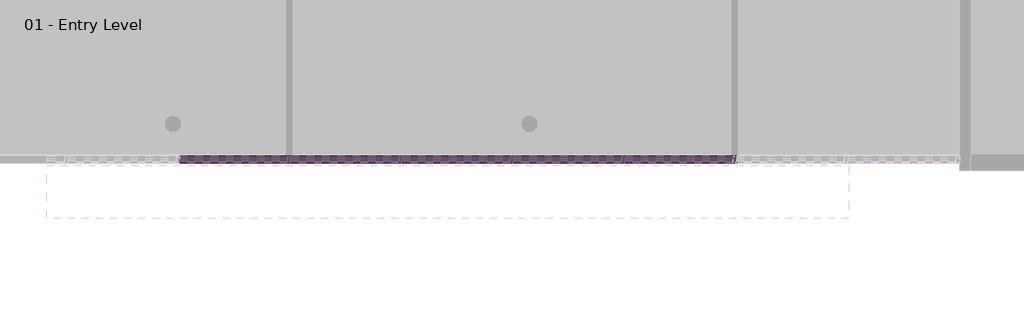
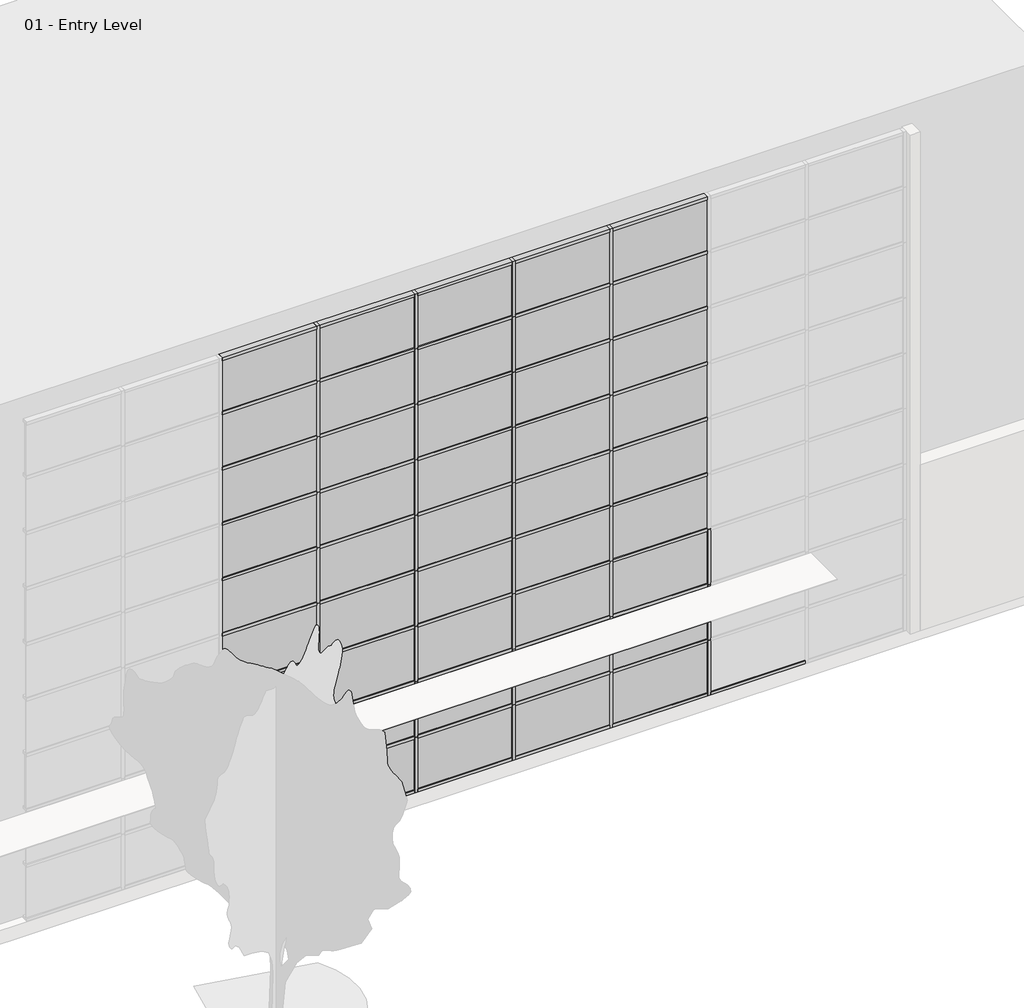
# One storey, part 5 of 34: 89 members, 43 plates.
"""IFC4 building model written with IfcOpenShell, lengths in millimetres."""

from ifc_helpers import new_model, si_unit, origin, place, context, project, spatial, transform, mapped, element, save
from components import member_2b49869a, member_391b434c, member_9e90ae50, system_panel_glazed_1b9d6098, system_panel_glazed_70da479d, system_panel_solid_b376696c, system_panel_solid_77e8b053

model = new_model("IFC4")

# Units and contexts
model_context = context("Model", 3, world=origin())
ifc_project = project(units=[si_unit("LENGTHUNIT", "METRE", prefix="MILLI")], contexts=[model_context])

# Site, building, storey
site = spatial("IfcSite", under=ifc_project)
building = spatial("IfcBuilding", under=site)
storey = spatial("IfcBuildingStorey", under=building, Name="01 - Entry Level", Elevation=0.0)

# Members
placement = place(None, origin())
member_shape = member_2b49869a(model_context)
element("IfcMember", 1, ObjectType="Rectangular Mullion : 2.5\" x 5\" rectangular", at=placement, inside=storey, context=model_context, shape_type="MappedRepresentation", body=[
    mapped(member_shape, transform((50915.2207476, -47.7, 9753.6), x_axis=(1.0, 0.0, 0.0), y_axis=(0.0, -1.0, 0.0), z_axis=(0.0, 0.0, -1.0))),
])
element("IfcMember", 2, ObjectType="Rectangular Mullion : 2.5\" x 5\" rectangular", at=placement, inside=storey, context=model_context, shape_type="MappedRepresentation", body=[
    mapped(member_shape, transform((52947.2207476, -47.7, 9753.6), x_axis=(1.0, 0.0, 0.0), y_axis=(0.0, -1.0, 0.0), z_axis=(0.0, 0.0, -1.0))),
])
element("IfcMember", 3, ObjectType="Rectangular Mullion : 2.5\" x 5\" rectangular", at=placement, inside=storey, context=model_context, shape_type="MappedRepresentation", body=[
    mapped(member_shape, transform((54979.2207476, -47.7, 9753.6), x_axis=(1.0, 0.0, 0.0), y_axis=(0.0, -1.0, 0.0), z_axis=(0.0, 0.0, -1.0))),
])
element("IfcMember", 4, ObjectType="Rectangular Mullion : 2.5\" x 5\" rectangular", at=placement, inside=storey, context=model_context, shape_type="MappedRepresentation", body=[
    mapped(member_shape, transform((57011.2207476, -47.7, 9753.6), x_axis=(1.0, 0.0, 0.0), y_axis=(0.0, -1.0, 0.0), z_axis=(0.0, 0.0, -1.0))),
])
member_2_shape = member_391b434c(model_context)
element("IfcMember", 5, ObjectType="Rectangular Mullion : 2.5\" x 5\" rectangular", at=placement, inside=storey, context=model_context, shape_type="MappedRepresentation", body=[
    mapped(member_2_shape, transform((50883.4707476, -47.7, 10972.8), x_axis=(0.0, 0.0, 1.0), y_axis=(0.0, -1.0, 0.0), z_axis=(1.0, 0.0, 0.0))),
])
element("IfcMember", 6, ObjectType="Rectangular Mullion : 2.5\" x 5\" rectangular", at=placement, inside=storey, context=model_context, shape_type="MappedRepresentation", body=[
    mapped(member_2_shape, transform((52915.4707476, -47.7, 10972.8), x_axis=(0.0, 0.0, 1.0), y_axis=(0.0, -1.0, 0.0), z_axis=(1.0, 0.0, 0.0))),
])
element("IfcMember", 7, ObjectType="Rectangular Mullion : 2.5\" x 5\" rectangular", at=placement, inside=storey, context=model_context, shape_type="MappedRepresentation", body=[
    mapped(member_2_shape, transform((54947.4707476, -47.7, 10972.8), x_axis=(0.0, 0.0, 1.0), y_axis=(0.0, -1.0, 0.0), z_axis=(1.0, 0.0, 0.0))),
])
element("IfcMember", 8, ObjectType="Rectangular Mullion : 2.5\" x 5\" rectangular", at=placement, inside=storey, context=model_context, shape_type="MappedRepresentation", body=[
    mapped(member_2_shape, transform((56979.4707476, -47.7, 10972.8), x_axis=(0.0, 0.0, 1.0), y_axis=(0.0, -1.0, 0.0), z_axis=(1.0, 0.0, 0.0))),
])
element("IfcMember", 9, ObjectType="Rectangular Mullion : 2.5\" x 5\" rectangular", at=placement, inside=storey, context=model_context, shape_type="MappedRepresentation", body=[
    mapped(member_2_shape, transform((59011.4707476, -47.7, 10972.8), x_axis=(0.0, 0.0, 1.0), y_axis=(0.0, -1.0, 0.0), z_axis=(1.0, 0.0, 0.0))),
])
element("IfcMember", 10, ObjectType="Rectangular Mullion : 2.5\" x 5\" rectangular", at=placement, inside=storey, context=model_context, shape_type="MappedRepresentation", body=[
    mapped(member_2_shape, transform((50946.9707476, -47.7, 0.0), x_axis=(0.0, 0.0, -1.0), y_axis=(0.0, -1.0, 0.0), z_axis=(-1.0, 0.0, 0.0))),
])
element("IfcMember", 11, ObjectType="Rectangular Mullion : 2.5\" x 5\" rectangular", at=placement, inside=storey, context=model_context, shape_type="MappedRepresentation", body=[
    mapped(member_2_shape, transform((52978.9707476, -47.7, 0.0), x_axis=(0.0, 0.0, -1.0), y_axis=(0.0, -1.0, 0.0), z_axis=(-1.0, 0.0, 0.0))),
])
element("IfcMember", 12, ObjectType="Rectangular Mullion : 2.5\" x 5\" rectangular", at=placement, inside=storey, context=model_context, shape_type="MappedRepresentation", body=[
    mapped(member_2_shape, transform((55010.9707476, -47.7, 0.0), x_axis=(0.0, 0.0, -1.0), y_axis=(0.0, -1.0, 0.0), z_axis=(-1.0, 0.0, 0.0))),
])
element("IfcMember", 13, ObjectType="Rectangular Mullion : 2.5\" x 5\" rectangular", at=placement, inside=storey, context=model_context, shape_type="MappedRepresentation", body=[
    mapped(member_2_shape, transform((57042.9707476, -47.7, 0.0), x_axis=(0.0, 0.0, -1.0), y_axis=(0.0, -1.0, 0.0), z_axis=(-1.0, 0.0, 0.0))),
])
element("IfcMember", 14, ObjectType="Rectangular Mullion : 2.5\" x 5\" rectangular", at=placement, inside=storey, context=model_context, shape_type="MappedRepresentation", body=[
    mapped(member_2_shape, transform((59074.9707476, -47.7, 0.0), x_axis=(0.0, 0.0, -1.0), y_axis=(0.0, -1.0, 0.0), z_axis=(-1.0, 0.0, 0.0))),
])
member_3_shape = member_9e90ae50(model_context)
element("IfcMember", 15, ObjectType="Rectangular Mullion : 2.5\" x 5\" rectangular", at=placement, inside=storey, context=model_context, shape_type="MappedRepresentation", body=[
    mapped(member_3_shape, transform((50883.4707476, -47.7, 1219.2), x_axis=(0.0, 0.0, 1.0), y_axis=(0.0, -1.0, 0.0), z_axis=(1.0, 0.0, 0.0))),
])
element("IfcMember", 16, ObjectType="Rectangular Mullion : 2.5\" x 5\" rectangular", at=placement, inside=storey, context=model_context, shape_type="MappedRepresentation", body=[
    mapped(member_3_shape, transform((52915.4707476, -47.7, 1219.2), x_axis=(0.0, 0.0, 1.0), y_axis=(0.0, -1.0, 0.0), z_axis=(1.0, 0.0, 0.0))),
])
element("IfcMember", 17, ObjectType="Rectangular Mullion : 2.5\" x 5\" rectangular", at=placement, inside=storey, context=model_context, shape_type="MappedRepresentation", body=[
    mapped(member_3_shape, transform((54947.4707476, -47.7, 1219.2), x_axis=(0.0, 0.0, 1.0), y_axis=(0.0, -1.0, 0.0), z_axis=(1.0, 0.0, 0.0))),
])
element("IfcMember", 18, ObjectType="Rectangular Mullion : 2.5\" x 5\" rectangular", at=placement, inside=storey, context=model_context, shape_type="MappedRepresentation", body=[
    mapped(member_3_shape, transform((56979.4707476, -47.7, 1219.2), x_axis=(0.0, 0.0, 1.0), y_axis=(0.0, -1.0, 0.0), z_axis=(1.0, 0.0, 0.0))),
])
element("IfcMember", 19, ObjectType="Rectangular Mullion : 2.5\" x 5\" rectangular", at=placement, inside=storey, context=model_context, shape_type="MappedRepresentation", body=[
    mapped(member_3_shape, transform((59011.4707476, -47.7, 1219.2), x_axis=(0.0, 0.0, 1.0), y_axis=(0.0, -1.0, 0.0), z_axis=(1.0, 0.0, 0.0))),
])
element("IfcMember", 20, ObjectType="Rectangular Mullion : 2.5\" x 5\" rectangular", at=placement, inside=storey, context=model_context, shape_type="MappedRepresentation", body=[
    mapped(member_3_shape, transform((50883.4707476, -47.7, 2438.4), x_axis=(0.0, 0.0, 1.0), y_axis=(0.0, -1.0, 0.0), z_axis=(1.0, 0.0, 0.0))),
])
element("IfcMember", 21, ObjectType="Rectangular Mullion : 2.5\" x 5\" rectangular", at=placement, inside=storey, context=model_context, shape_type="MappedRepresentation", body=[
    mapped(member_3_shape, transform((52915.4707476, -47.7, 2438.4), x_axis=(0.0, 0.0, 1.0), y_axis=(0.0, -1.0, 0.0), z_axis=(1.0, 0.0, 0.0))),
])
element("IfcMember", 22, ObjectType="Rectangular Mullion : 2.5\" x 5\" rectangular", at=placement, inside=storey, context=model_context, shape_type="MappedRepresentation", body=[
    mapped(member_3_shape, transform((54947.4707476, -47.7, 2438.4), x_axis=(0.0, 0.0, 1.0), y_axis=(0.0, -1.0, 0.0), z_axis=(1.0, 0.0, 0.0))),
])
element("IfcMember", 23, ObjectType="Rectangular Mullion : 2.5\" x 5\" rectangular", at=placement, inside=storey, context=model_context, shape_type="MappedRepresentation", body=[
    mapped(member_3_shape, transform((56979.4707476, -47.7, 2438.4), x_axis=(0.0, 0.0, 1.0), y_axis=(0.0, -1.0, 0.0), z_axis=(1.0, 0.0, 0.0))),
])
element("IfcMember", 24, ObjectType="Rectangular Mullion : 2.5\" x 5\" rectangular", at=placement, inside=storey, context=model_context, shape_type="MappedRepresentation", body=[
    mapped(member_3_shape, transform((59011.4707476, -47.7, 2438.4), x_axis=(0.0, 0.0, 1.0), y_axis=(0.0, -1.0, 0.0), z_axis=(1.0, 0.0, 0.0))),
])
element("IfcMember", 25, ObjectType="Rectangular Mullion : 2.5\" x 5\" rectangular", at=placement, inside=storey, context=model_context, shape_type="MappedRepresentation", body=[
    mapped(member_3_shape, transform((50883.4707476, -47.7, 3657.6), x_axis=(0.0, 0.0, 1.0), y_axis=(0.0, -1.0, 0.0), z_axis=(1.0, 0.0, 0.0))),
])
element("IfcMember", 26, ObjectType="Rectangular Mullion : 2.5\" x 5\" rectangular", at=placement, inside=storey, context=model_context, shape_type="MappedRepresentation", body=[
    mapped(member_3_shape, transform((52915.4707476, -47.7, 3657.6), x_axis=(0.0, 0.0, 1.0), y_axis=(0.0, -1.0, 0.0), z_axis=(1.0, 0.0, 0.0))),
])
element("IfcMember", 27, ObjectType="Rectangular Mullion : 2.5\" x 5\" rectangular", at=placement, inside=storey, context=model_context, shape_type="MappedRepresentation", body=[
    mapped(member_3_shape, transform((54947.4707476, -47.7, 3657.6), x_axis=(0.0, 0.0, 1.0), y_axis=(0.0, -1.0, 0.0), z_axis=(1.0, 0.0, 0.0))),
])
element("IfcMember", 28, ObjectType="Rectangular Mullion : 2.5\" x 5\" rectangular", at=placement, inside=storey, context=model_context, shape_type="MappedRepresentation", body=[
    mapped(member_3_shape, transform((56979.4707476, -47.7, 3657.6), x_axis=(0.0, 0.0, 1.0), y_axis=(0.0, -1.0, 0.0), z_axis=(1.0, 0.0, 0.0))),
])
element("IfcMember", 29, ObjectType="Rectangular Mullion : 2.5\" x 5\" rectangular", at=placement, inside=storey, context=model_context, shape_type="MappedRepresentation", body=[
    mapped(member_3_shape, transform((59011.4707476, -47.7, 3657.6), x_axis=(0.0, 0.0, 1.0), y_axis=(0.0, -1.0, 0.0), z_axis=(1.0, 0.0, 0.0))),
])
element("IfcMember", 30, ObjectType="Rectangular Mullion : 2.5\" x 5\" rectangular", at=placement, inside=storey, context=model_context, shape_type="MappedRepresentation", body=[
    mapped(member_3_shape, transform((50883.4707476, -47.7, 4876.8), x_axis=(0.0, 0.0, 1.0), y_axis=(0.0, -1.0, 0.0), z_axis=(1.0, 0.0, 0.0))),
])
element("IfcMember", 31, ObjectType="Rectangular Mullion : 2.5\" x 5\" rectangular", at=placement, inside=storey, context=model_context, shape_type="MappedRepresentation", body=[
    mapped(member_3_shape, transform((52915.4707476, -47.7, 4876.8), x_axis=(0.0, 0.0, 1.0), y_axis=(0.0, -1.0, 0.0), z_axis=(1.0, 0.0, 0.0))),
])
element("IfcMember", 32, ObjectType="Rectangular Mullion : 2.5\" x 5\" rectangular", at=placement, inside=storey, context=model_context, shape_type="MappedRepresentation", body=[
    mapped(member_3_shape, transform((54947.4707476, -47.7, 4876.8), x_axis=(0.0, 0.0, 1.0), y_axis=(0.0, -1.0, 0.0), z_axis=(1.0, 0.0, 0.0))),
])
element("IfcMember", 33, ObjectType="Rectangular Mullion : 2.5\" x 5\" rectangular", at=placement, inside=storey, context=model_context, shape_type="MappedRepresentation", body=[
    mapped(member_3_shape, transform((56979.4707476, -47.7, 4876.8), x_axis=(0.0, 0.0, 1.0), y_axis=(0.0, -1.0, 0.0), z_axis=(1.0, 0.0, 0.0))),
])
element("IfcMember", 34, ObjectType="Rectangular Mullion : 2.5\" x 5\" rectangular", at=placement, inside=storey, context=model_context, shape_type="MappedRepresentation", body=[
    mapped(member_3_shape, transform((59011.4707476, -47.7, 4876.8), x_axis=(0.0, 0.0, 1.0), y_axis=(0.0, -1.0, 0.0), z_axis=(1.0, 0.0, 0.0))),
])
element("IfcMember", 35, ObjectType="Rectangular Mullion : 2.5\" x 5\" rectangular", at=placement, inside=storey, context=model_context, shape_type="MappedRepresentation", body=[
    mapped(member_3_shape, transform((50883.4707476, -47.7, 6096.0), x_axis=(0.0, 0.0, 1.0), y_axis=(0.0, -1.0, 0.0), z_axis=(1.0, 0.0, 0.0))),
])
element("IfcMember", 36, ObjectType="Rectangular Mullion : 2.5\" x 5\" rectangular", at=placement, inside=storey, context=model_context, shape_type="MappedRepresentation", body=[
    mapped(member_3_shape, transform((52915.4707476, -47.7, 6096.0), x_axis=(0.0, 0.0, 1.0), y_axis=(0.0, -1.0, 0.0), z_axis=(1.0, 0.0, 0.0))),
])
element("IfcMember", 37, ObjectType="Rectangular Mullion : 2.5\" x 5\" rectangular", at=placement, inside=storey, context=model_context, shape_type="MappedRepresentation", body=[
    mapped(member_3_shape, transform((54947.4707476, -47.7, 6096.0), x_axis=(0.0, 0.0, 1.0), y_axis=(0.0, -1.0, 0.0), z_axis=(1.0, 0.0, 0.0))),
])
element("IfcMember", 38, ObjectType="Rectangular Mullion : 2.5\" x 5\" rectangular", at=placement, inside=storey, context=model_context, shape_type="MappedRepresentation", body=[
    mapped(member_3_shape, transform((56979.4707476, -47.7, 6096.0), x_axis=(0.0, 0.0, 1.0), y_axis=(0.0, -1.0, 0.0), z_axis=(1.0, 0.0, 0.0))),
])
element("IfcMember", 39, ObjectType="Rectangular Mullion : 2.5\" x 5\" rectangular", at=placement, inside=storey, context=model_context, shape_type="MappedRepresentation", body=[
    mapped(member_3_shape, transform((59011.4707476, -47.7, 6096.0), x_axis=(0.0, 0.0, 1.0), y_axis=(0.0, -1.0, 0.0), z_axis=(1.0, 0.0, 0.0))),
])
element("IfcMember", 40, ObjectType="Rectangular Mullion : 2.5\" x 5\" rectangular", at=placement, inside=storey, context=model_context, shape_type="MappedRepresentation", body=[
    mapped(member_3_shape, transform((50883.4707476, -47.7, 7315.2), x_axis=(0.0, 0.0, 1.0), y_axis=(0.0, -1.0, 0.0), z_axis=(1.0, 0.0, 0.0))),
])
element("IfcMember", 41, ObjectType="Rectangular Mullion : 2.5\" x 5\" rectangular", at=placement, inside=storey, context=model_context, shape_type="MappedRepresentation", body=[
    mapped(member_3_shape, transform((52915.4707476, -47.7, 7315.2), x_axis=(0.0, 0.0, 1.0), y_axis=(0.0, -1.0, 0.0), z_axis=(1.0, 0.0, 0.0))),
])
element("IfcMember", 42, ObjectType="Rectangular Mullion : 2.5\" x 5\" rectangular", at=placement, inside=storey, context=model_context, shape_type="MappedRepresentation", body=[
    mapped(member_3_shape, transform((54947.4707476, -47.7, 7315.2), x_axis=(0.0, 0.0, 1.0), y_axis=(0.0, -1.0, 0.0), z_axis=(1.0, 0.0, 0.0))),
])
element("IfcMember", 43, ObjectType="Rectangular Mullion : 2.5\" x 5\" rectangular", at=placement, inside=storey, context=model_context, shape_type="MappedRepresentation", body=[
    mapped(member_3_shape, transform((56979.4707476, -47.7, 7315.2), x_axis=(0.0, 0.0, 1.0), y_axis=(0.0, -1.0, 0.0), z_axis=(1.0, 0.0, 0.0))),
])
element("IfcMember", 44, ObjectType="Rectangular Mullion : 2.5\" x 5\" rectangular", at=placement, inside=storey, context=model_context, shape_type="MappedRepresentation", body=[
    mapped(member_3_shape, transform((59011.4707476, -47.7, 7315.2), x_axis=(0.0, 0.0, 1.0), y_axis=(0.0, -1.0, 0.0), z_axis=(1.0, 0.0, 0.0))),
])
element("IfcMember", 45, ObjectType="Rectangular Mullion : 2.5\" x 5\" rectangular", at=placement, inside=storey, context=model_context, shape_type="MappedRepresentation", body=[
    mapped(member_3_shape, transform((50883.4707476, -47.7, 8534.4), x_axis=(0.0, 0.0, 1.0), y_axis=(0.0, -1.0, 0.0), z_axis=(1.0, 0.0, 0.0))),
])
element("IfcMember", 46, ObjectType="Rectangular Mullion : 2.5\" x 5\" rectangular", at=placement, inside=storey, context=model_context, shape_type="MappedRepresentation", body=[
    mapped(member_3_shape, transform((52915.4707476, -47.7, 8534.4), x_axis=(0.0, 0.0, 1.0), y_axis=(0.0, -1.0, 0.0), z_axis=(1.0, 0.0, 0.0))),
])
element("IfcMember", 47, ObjectType="Rectangular Mullion : 2.5\" x 5\" rectangular", at=placement, inside=storey, context=model_context, shape_type="MappedRepresentation", body=[
    mapped(member_3_shape, transform((54947.4707476, -47.7, 8534.4), x_axis=(0.0, 0.0, 1.0), y_axis=(0.0, -1.0, 0.0), z_axis=(1.0, 0.0, 0.0))),
])
element("IfcMember", 48, ObjectType="Rectangular Mullion : 2.5\" x 5\" rectangular", at=placement, inside=storey, context=model_context, shape_type="MappedRepresentation", body=[
    mapped(member_3_shape, transform((56979.4707476, -47.7, 8534.4), x_axis=(0.0, 0.0, 1.0), y_axis=(0.0, -1.0, 0.0), z_axis=(1.0, 0.0, 0.0))),
])
element("IfcMember", 49, ObjectType="Rectangular Mullion : 2.5\" x 5\" rectangular", at=placement, inside=storey, context=model_context, shape_type="MappedRepresentation", body=[
    mapped(member_3_shape, transform((59011.4707476, -47.7, 8534.4), x_axis=(0.0, 0.0, 1.0), y_axis=(0.0, -1.0, 0.0), z_axis=(1.0, 0.0, 0.0))),
])
element("IfcMember", 50, ObjectType="Rectangular Mullion : 2.5\" x 5\" rectangular", at=placement, inside=storey, context=model_context, shape_type="MappedRepresentation", body=[
    mapped(member_3_shape, transform((50883.4707476, -47.7, 9753.6), x_axis=(0.0, 0.0, 1.0), y_axis=(0.0, -1.0, 0.0), z_axis=(1.0, 0.0, 0.0))),
])
element("IfcMember", 51, ObjectType="Rectangular Mullion : 2.5\" x 5\" rectangular", at=placement, inside=storey, context=model_context, shape_type="MappedRepresentation", body=[
    mapped(member_3_shape, transform((52915.4707476, -47.7, 9753.6), x_axis=(0.0, 0.0, 1.0), y_axis=(0.0, -1.0, 0.0), z_axis=(1.0, 0.0, 0.0))),
])
element("IfcMember", 52, ObjectType="Rectangular Mullion : 2.5\" x 5\" rectangular", at=placement, inside=storey, context=model_context, shape_type="MappedRepresentation", body=[
    mapped(member_3_shape, transform((54947.4707476, -47.7, 9753.6), x_axis=(0.0, 0.0, 1.0), y_axis=(0.0, -1.0, 0.0), z_axis=(1.0, 0.0, 0.0))),
])
element("IfcMember", 53, ObjectType="Rectangular Mullion : 2.5\" x 5\" rectangular", at=placement, inside=storey, context=model_context, shape_type="MappedRepresentation", body=[
    mapped(member_3_shape, transform((56979.4707476, -47.7, 9753.6), x_axis=(0.0, 0.0, 1.0), y_axis=(0.0, -1.0, 0.0), z_axis=(1.0, 0.0, 0.0))),
])
element("IfcMember", 54, ObjectType="Rectangular Mullion : 2.5\" x 5\" rectangular", at=placement, inside=storey, context=model_context, shape_type="MappedRepresentation", body=[
    mapped(member_3_shape, transform((59011.4707476, -47.7, 9753.6), x_axis=(0.0, 0.0, 1.0), y_axis=(0.0, -1.0, 0.0), z_axis=(1.0, 0.0, 0.0))),
])
element("IfcMember", 55, ObjectType="Rectangular Mullion : 2.5\" x 5\" rectangular", at=placement, inside=storey, context=model_context, shape_type="MappedRepresentation", body=[
    mapped(member_shape, transform((50915.2207476, -47.7, 0.0), x_axis=(1.0, 0.0, 0.0), y_axis=(0.0, -1.0, 0.0), z_axis=(0.0, 0.0, -1.0))),
])
element("IfcMember", 56, ObjectType="Rectangular Mullion : 2.5\" x 5\" rectangular", at=placement, inside=storey, context=model_context, shape_type="MappedRepresentation", body=[
    mapped(member_shape, transform((52947.2207476, -47.7, 0.0), x_axis=(1.0, 0.0, 0.0), y_axis=(0.0, -1.0, 0.0), z_axis=(0.0, 0.0, -1.0))),
])
element("IfcMember", 57, ObjectType="Rectangular Mullion : 2.5\" x 5\" rectangular", at=placement, inside=storey, context=model_context, shape_type="MappedRepresentation", body=[
    mapped(member_shape, transform((54979.2207476, -47.7, 0.0), x_axis=(1.0, 0.0, 0.0), y_axis=(0.0, -1.0, 0.0), z_axis=(0.0, 0.0, -1.0))),
])
element("IfcMember", 58, ObjectType="Rectangular Mullion : 2.5\" x 5\" rectangular", at=placement, inside=storey, context=model_context, shape_type="MappedRepresentation", body=[
    mapped(member_shape, transform((57011.2207476, -47.7, 0.0), x_axis=(1.0, 0.0, 0.0), y_axis=(0.0, -1.0, 0.0), z_axis=(0.0, 0.0, -1.0))),
])
element("IfcMember", 59, ObjectType="Rectangular Mullion : 2.5\" x 5\" rectangular", at=placement, inside=storey, context=model_context, shape_type="MappedRepresentation", body=[
    mapped(member_shape, transform((59043.2207476, -47.7, 0.0), x_axis=(1.0, 0.0, 0.0), y_axis=(0.0, -1.0, 0.0), z_axis=(0.0, 0.0, -1.0))),
])
element("IfcMember", 60, ObjectType="Rectangular Mullion : 2.5\" x 5\" rectangular", at=placement, inside=storey, context=model_context, shape_type="MappedRepresentation", body=[
    mapped(member_shape, transform((50915.2207476, -47.7, 1219.2), x_axis=(1.0, 0.0, 0.0), y_axis=(0.0, -1.0, 0.0), z_axis=(0.0, 0.0, -1.0))),
])
element("IfcMember", 61, ObjectType="Rectangular Mullion : 2.5\" x 5\" rectangular", at=placement, inside=storey, context=model_context, shape_type="MappedRepresentation", body=[
    mapped(member_shape, transform((52947.2207476, -47.7, 1219.2), x_axis=(1.0, 0.0, 0.0), y_axis=(0.0, -1.0, 0.0), z_axis=(0.0, 0.0, -1.0))),
])
element("IfcMember", 62, ObjectType="Rectangular Mullion : 2.5\" x 5\" rectangular", at=placement, inside=storey, context=model_context, shape_type="MappedRepresentation", body=[
    mapped(member_shape, transform((54979.2207476, -47.7, 1219.2), x_axis=(1.0, 0.0, 0.0), y_axis=(0.0, -1.0, 0.0), z_axis=(0.0, 0.0, -1.0))),
])
element("IfcMember", 63, ObjectType="Rectangular Mullion : 2.5\" x 5\" rectangular", at=placement, inside=storey, context=model_context, shape_type="MappedRepresentation", body=[
    mapped(member_shape, transform((57011.2207476, -47.7, 1219.2), x_axis=(1.0, 0.0, 0.0), y_axis=(0.0, -1.0, 0.0), z_axis=(0.0, 0.0, -1.0))),
])
element("IfcMember", 64, ObjectType="Rectangular Mullion : 2.5\" x 5\" rectangular", at=placement, inside=storey, context=model_context, shape_type="MappedRepresentation", body=[
    mapped(member_shape, transform((59043.2207476, -47.7, 1219.2), x_axis=(1.0, 0.0, 0.0), y_axis=(0.0, -1.0, 0.0), z_axis=(0.0, 0.0, -1.0))),
])
element("IfcMember", 65, ObjectType="Rectangular Mullion : 2.5\" x 5\" rectangular", at=placement, inside=storey, context=model_context, shape_type="MappedRepresentation", body=[
    mapped(member_shape, transform((50915.2207476, -47.7, 2438.4), x_axis=(1.0, 0.0, 0.0), y_axis=(0.0, -1.0, 0.0), z_axis=(0.0, 0.0, -1.0))),
])
element("IfcMember", 66, ObjectType="Rectangular Mullion : 2.5\" x 5\" rectangular", at=placement, inside=storey, context=model_context, shape_type="MappedRepresentation", body=[
    mapped(member_shape, transform((52947.2207476, -47.7, 2438.4), x_axis=(1.0, 0.0, 0.0), y_axis=(0.0, -1.0, 0.0), z_axis=(0.0, 0.0, -1.0))),
])
element("IfcMember", 67, ObjectType="Rectangular Mullion : 2.5\" x 5\" rectangular", at=placement, inside=storey, context=model_context, shape_type="MappedRepresentation", body=[
    mapped(member_shape, transform((54979.2207476, -47.7, 2438.4), x_axis=(1.0, 0.0, 0.0), y_axis=(0.0, -1.0, 0.0), z_axis=(0.0, 0.0, -1.0))),
])
element("IfcMember", 68, ObjectType="Rectangular Mullion : 2.5\" x 5\" rectangular", at=placement, inside=storey, context=model_context, shape_type="MappedRepresentation", body=[
    mapped(member_shape, transform((57011.2207476, -47.7, 2438.4), x_axis=(1.0, 0.0, 0.0), y_axis=(0.0, -1.0, 0.0), z_axis=(0.0, 0.0, -1.0))),
])
element("IfcMember", 69, ObjectType="Rectangular Mullion : 2.5\" x 5\" rectangular", at=placement, inside=storey, context=model_context, shape_type="MappedRepresentation", body=[
    mapped(member_shape, transform((59043.2207476, -47.7, 2438.4), x_axis=(1.0, 0.0, 0.0), y_axis=(0.0, -1.0, 0.0), z_axis=(0.0, 0.0, -1.0))),
])
element("IfcMember", 70, ObjectType="Rectangular Mullion : 2.5\" x 5\" rectangular", at=placement, inside=storey, context=model_context, shape_type="MappedRepresentation", body=[
    mapped(member_shape, transform((50915.2207476, -47.7, 3657.6), x_axis=(1.0, 0.0, 0.0), y_axis=(0.0, -1.0, 0.0), z_axis=(0.0, 0.0, -1.0))),
])
element("IfcMember", 71, ObjectType="Rectangular Mullion : 2.5\" x 5\" rectangular", at=placement, inside=storey, context=model_context, shape_type="MappedRepresentation", body=[
    mapped(member_shape, transform((52947.2207476, -47.7, 3657.6), x_axis=(1.0, 0.0, 0.0), y_axis=(0.0, -1.0, 0.0), z_axis=(0.0, 0.0, -1.0))),
])
element("IfcMember", 72, ObjectType="Rectangular Mullion : 2.5\" x 5\" rectangular", at=placement, inside=storey, context=model_context, shape_type="MappedRepresentation", body=[
    mapped(member_shape, transform((54979.2207476, -47.7, 3657.6), x_axis=(1.0, 0.0, 0.0), y_axis=(0.0, -1.0, 0.0), z_axis=(0.0, 0.0, -1.0))),
])
element("IfcMember", 73, ObjectType="Rectangular Mullion : 2.5\" x 5\" rectangular", at=placement, inside=storey, context=model_context, shape_type="MappedRepresentation", body=[
    mapped(member_shape, transform((57011.2207476, -47.7, 3657.6), x_axis=(1.0, 0.0, 0.0), y_axis=(0.0, -1.0, 0.0), z_axis=(0.0, 0.0, -1.0))),
])
element("IfcMember", 74, ObjectType="Rectangular Mullion : 2.5\" x 5\" rectangular", at=placement, inside=storey, context=model_context, shape_type="MappedRepresentation", body=[
    mapped(member_shape, transform((50915.2207476, -47.7, 4876.8), x_axis=(1.0, 0.0, 0.0), y_axis=(0.0, -1.0, 0.0), z_axis=(0.0, 0.0, -1.0))),
])
element("IfcMember", 75, ObjectType="Rectangular Mullion : 2.5\" x 5\" rectangular", at=placement, inside=storey, context=model_context, shape_type="MappedRepresentation", body=[
    mapped(member_shape, transform((52947.2207476, -47.7, 4876.8), x_axis=(1.0, 0.0, 0.0), y_axis=(0.0, -1.0, 0.0), z_axis=(0.0, 0.0, -1.0))),
])
element("IfcMember", 76, ObjectType="Rectangular Mullion : 2.5\" x 5\" rectangular", at=placement, inside=storey, context=model_context, shape_type="MappedRepresentation", body=[
    mapped(member_shape, transform((54979.2207476, -47.7, 4876.8), x_axis=(1.0, 0.0, 0.0), y_axis=(0.0, -1.0, 0.0), z_axis=(0.0, 0.0, -1.0))),
])
element("IfcMember", 77, ObjectType="Rectangular Mullion : 2.5\" x 5\" rectangular", at=placement, inside=storey, context=model_context, shape_type="MappedRepresentation", body=[
    mapped(member_shape, transform((57011.2207476, -47.7, 4876.8), x_axis=(1.0, 0.0, 0.0), y_axis=(0.0, -1.0, 0.0), z_axis=(0.0, 0.0, -1.0))),
])
element("IfcMember", 78, ObjectType="Rectangular Mullion : 2.5\" x 5\" rectangular", at=placement, inside=storey, context=model_context, shape_type="MappedRepresentation", body=[
    mapped(member_shape, transform((50915.2207476, -47.7, 6096.0), x_axis=(1.0, 0.0, 0.0), y_axis=(0.0, -1.0, 0.0), z_axis=(0.0, 0.0, -1.0))),
])
element("IfcMember", 79, ObjectType="Rectangular Mullion : 2.5\" x 5\" rectangular", at=placement, inside=storey, context=model_context, shape_type="MappedRepresentation", body=[
    mapped(member_shape, transform((52947.2207476, -47.7, 6096.0), x_axis=(1.0, 0.0, 0.0), y_axis=(0.0, -1.0, 0.0), z_axis=(0.0, 0.0, -1.0))),
])
element("IfcMember", 80, ObjectType="Rectangular Mullion : 2.5\" x 5\" rectangular", at=placement, inside=storey, context=model_context, shape_type="MappedRepresentation", body=[
    mapped(member_shape, transform((54979.2207476, -47.7, 6096.0), x_axis=(1.0, 0.0, 0.0), y_axis=(0.0, -1.0, 0.0), z_axis=(0.0, 0.0, -1.0))),
])
element("IfcMember", 81, ObjectType="Rectangular Mullion : 2.5\" x 5\" rectangular", at=placement, inside=storey, context=model_context, shape_type="MappedRepresentation", body=[
    mapped(member_shape, transform((57011.2207476, -47.7, 6096.0), x_axis=(1.0, 0.0, 0.0), y_axis=(0.0, -1.0, 0.0), z_axis=(0.0, 0.0, -1.0))),
])
element("IfcMember", 82, ObjectType="Rectangular Mullion : 2.5\" x 5\" rectangular", at=placement, inside=storey, context=model_context, shape_type="MappedRepresentation", body=[
    mapped(member_shape, transform((50915.2207476, -47.7, 7315.2), x_axis=(1.0, 0.0, 0.0), y_axis=(0.0, -1.0, 0.0), z_axis=(0.0, 0.0, -1.0))),
])
element("IfcMember", 83, ObjectType="Rectangular Mullion : 2.5\" x 5\" rectangular", at=placement, inside=storey, context=model_context, shape_type="MappedRepresentation", body=[
    mapped(member_shape, transform((52947.2207476, -47.7, 7315.2), x_axis=(1.0, 0.0, 0.0), y_axis=(0.0, -1.0, 0.0), z_axis=(0.0, 0.0, -1.0))),
])
element("IfcMember", 84, ObjectType="Rectangular Mullion : 2.5\" x 5\" rectangular", at=placement, inside=storey, context=model_context, shape_type="MappedRepresentation", body=[
    mapped(member_shape, transform((54979.2207476, -47.7, 7315.2), x_axis=(1.0, 0.0, 0.0), y_axis=(0.0, -1.0, 0.0), z_axis=(0.0, 0.0, -1.0))),
])
element("IfcMember", 85, ObjectType="Rectangular Mullion : 2.5\" x 5\" rectangular", at=placement, inside=storey, context=model_context, shape_type="MappedRepresentation", body=[
    mapped(member_shape, transform((57011.2207476, -47.7, 7315.2), x_axis=(1.0, 0.0, 0.0), y_axis=(0.0, -1.0, 0.0), z_axis=(0.0, 0.0, -1.0))),
])
element("IfcMember", 86, ObjectType="Rectangular Mullion : 2.5\" x 5\" rectangular", at=placement, inside=storey, context=model_context, shape_type="MappedRepresentation", body=[
    mapped(member_shape, transform((50915.2207476, -47.7, 8534.4), x_axis=(1.0, 0.0, 0.0), y_axis=(0.0, -1.0, 0.0), z_axis=(0.0, 0.0, -1.0))),
])
element("IfcMember", 87, ObjectType="Rectangular Mullion : 2.5\" x 5\" rectangular", at=placement, inside=storey, context=model_context, shape_type="MappedRepresentation", body=[
    mapped(member_shape, transform((52947.2207476, -47.7, 8534.4), x_axis=(1.0, 0.0, 0.0), y_axis=(0.0, -1.0, 0.0), z_axis=(0.0, 0.0, -1.0))),
])
element("IfcMember", 88, ObjectType="Rectangular Mullion : 2.5\" x 5\" rectangular", at=placement, inside=storey, context=model_context, shape_type="MappedRepresentation", body=[
    mapped(member_shape, transform((54979.2207476, -47.7, 8534.4), x_axis=(1.0, 0.0, 0.0), y_axis=(0.0, -1.0, 0.0), z_axis=(0.0, 0.0, -1.0))),
])
element("IfcMember", 89, ObjectType="Rectangular Mullion : 2.5\" x 5\" rectangular", at=placement, inside=storey, context=model_context, shape_type="MappedRepresentation", body=[
    mapped(member_shape, transform((57011.2207476, -47.7, 8534.4), x_axis=(1.0, 0.0, 0.0), y_axis=(0.0, -1.0, 0.0), z_axis=(0.0, 0.0, -1.0))),
])

# Plates
system_panel_glazed_shape = system_panel_glazed_1b9d6098(model_context)
element("IfcPlate", 90, ObjectType="System Panel : Glazed", at=placement, inside=storey, context=model_context, shape_type="MappedRepresentation", body=[
    mapped(system_panel_glazed_shape, transform((51931.2207476, -47.7, 63.5), x_axis=(1.0, 0.0, 0.0), y_axis=(0.0, 1.0, 0.0), z_axis=(0.0, 0.0, 1.0))),
])
element("IfcPlate", 91, ObjectType="System Panel : Glazed", at=placement, inside=storey, context=model_context, shape_type="MappedRepresentation", body=[
    mapped(system_panel_glazed_shape, transform((53963.2207476, -47.7, 63.5), x_axis=(1.0, 0.0, 0.0), y_axis=(0.0, 1.0, 0.0), z_axis=(0.0, 0.0, 1.0))),
])
element("IfcPlate", 92, ObjectType="System Panel : Glazed", at=placement, inside=storey, context=model_context, shape_type="MappedRepresentation", body=[
    mapped(system_panel_glazed_shape, transform((55995.2207476, -47.7, 63.5), x_axis=(1.0, 0.0, 0.0), y_axis=(0.0, 1.0, 0.0), z_axis=(0.0, 0.0, 1.0))),
])
element("IfcPlate", 93, ObjectType="System Panel : Glazed", at=placement, inside=storey, context=model_context, shape_type="MappedRepresentation", body=[
    mapped(system_panel_glazed_shape, transform((58027.2207476, -47.7, 63.5), x_axis=(1.0, 0.0, 0.0), y_axis=(0.0, 1.0, 0.0), z_axis=(0.0, 0.0, 1.0))),
])
system_panel_glazed_2_shape = system_panel_glazed_70da479d(model_context)
element("IfcPlate", 94, ObjectType="System Panel : Glazed", at=placement, inside=storey, context=model_context, shape_type="MappedRepresentation", body=[
    mapped(system_panel_glazed_2_shape, transform((51931.2207476, -47.7, 1250.95), x_axis=(1.0, 0.0, 0.0), y_axis=(0.0, 1.0, 0.0), z_axis=(0.0, 0.0, 1.0))),
])
element("IfcPlate", 95, ObjectType="System Panel : Glazed", at=placement, inside=storey, context=model_context, shape_type="MappedRepresentation", body=[
    mapped(system_panel_glazed_2_shape, transform((53963.2207476, -47.7, 1250.95), x_axis=(1.0, 0.0, 0.0), y_axis=(0.0, 1.0, 0.0), z_axis=(0.0, 0.0, 1.0))),
])
element("IfcPlate", 96, ObjectType="System Panel : Glazed", at=placement, inside=storey, context=model_context, shape_type="MappedRepresentation", body=[
    mapped(system_panel_glazed_2_shape, transform((55995.2207476, -47.7, 1250.95), x_axis=(1.0, 0.0, 0.0), y_axis=(0.0, 1.0, 0.0), z_axis=(0.0, 0.0, 1.0))),
])
element("IfcPlate", 97, ObjectType="System Panel : Glazed", at=placement, inside=storey, context=model_context, shape_type="MappedRepresentation", body=[
    mapped(system_panel_glazed_2_shape, transform((58027.2207476, -47.7, 1250.95), x_axis=(1.0, 0.0, 0.0), y_axis=(0.0, 1.0, 0.0), z_axis=(0.0, 0.0, 1.0))),
])
element("IfcPlate", 98, ObjectType="System Panel : Glazed", at=placement, inside=storey, context=model_context, shape_type="MappedRepresentation", body=[
    mapped(system_panel_glazed_2_shape, transform((49899.2207476, -47.7, 3689.35), x_axis=(1.0, 0.0, 0.0), y_axis=(0.0, 1.0, 0.0), z_axis=(0.0, 0.0, 1.0))),
])
element("IfcPlate", 99, ObjectType="System Panel : Glazed", at=placement, inside=storey, context=model_context, shape_type="MappedRepresentation", body=[
    mapped(system_panel_glazed_2_shape, transform((51931.2207476, -47.7, 3689.35), x_axis=(1.0, 0.0, 0.0), y_axis=(0.0, 1.0, 0.0), z_axis=(0.0, 0.0, 1.0))),
])
element("IfcPlate", 100, ObjectType="System Panel : Glazed", at=placement, inside=storey, context=model_context, shape_type="MappedRepresentation", body=[
    mapped(system_panel_glazed_2_shape, transform((53963.2207476, -47.7, 3689.35), x_axis=(1.0, 0.0, 0.0), y_axis=(0.0, 1.0, 0.0), z_axis=(0.0, 0.0, 1.0))),
])
element("IfcPlate", 101, ObjectType="System Panel : Glazed", at=placement, inside=storey, context=model_context, shape_type="MappedRepresentation", body=[
    mapped(system_panel_glazed_2_shape, transform((55995.2207476, -47.7, 3689.35), x_axis=(1.0, 0.0, 0.0), y_axis=(0.0, 1.0, 0.0), z_axis=(0.0, 0.0, 1.0))),
])
element("IfcPlate", 102, ObjectType="System Panel : Glazed", at=placement, inside=storey, context=model_context, shape_type="MappedRepresentation", body=[
    mapped(system_panel_glazed_2_shape, transform((58027.2207476, -47.7, 3689.35), x_axis=(1.0, 0.0, 0.0), y_axis=(0.0, 1.0, 0.0), z_axis=(0.0, 0.0, 1.0))),
])
element("IfcPlate", 103, ObjectType="System Panel : Glazed", at=placement, inside=storey, context=model_context, shape_type="MappedRepresentation", body=[
    mapped(system_panel_glazed_2_shape, transform((49899.2207476, -47.7, 4908.55), x_axis=(1.0, 0.0, 0.0), y_axis=(0.0, 1.0, 0.0), z_axis=(0.0, 0.0, 1.0))),
])
element("IfcPlate", 104, ObjectType="System Panel : Glazed", at=placement, inside=storey, context=model_context, shape_type="MappedRepresentation", body=[
    mapped(system_panel_glazed_2_shape, transform((51931.2207476, -47.7, 4908.55), x_axis=(1.0, 0.0, 0.0), y_axis=(0.0, 1.0, 0.0), z_axis=(0.0, 0.0, 1.0))),
])
element("IfcPlate", 105, ObjectType="System Panel : Glazed", at=placement, inside=storey, context=model_context, shape_type="MappedRepresentation", body=[
    mapped(system_panel_glazed_2_shape, transform((53963.2207476, -47.7, 4908.55), x_axis=(1.0, 0.0, 0.0), y_axis=(0.0, 1.0, 0.0), z_axis=(0.0, 0.0, 1.0))),
])
element("IfcPlate", 106, ObjectType="System Panel : Glazed", at=placement, inside=storey, context=model_context, shape_type="MappedRepresentation", body=[
    mapped(system_panel_glazed_2_shape, transform((55995.2207476, -47.7, 4908.55), x_axis=(1.0, 0.0, 0.0), y_axis=(0.0, 1.0, 0.0), z_axis=(0.0, 0.0, 1.0))),
])
element("IfcPlate", 107, ObjectType="System Panel : Glazed", at=placement, inside=storey, context=model_context, shape_type="MappedRepresentation", body=[
    mapped(system_panel_glazed_2_shape, transform((58027.2207476, -47.7, 4908.55), x_axis=(1.0, 0.0, 0.0), y_axis=(0.0, 1.0, 0.0), z_axis=(0.0, 0.0, 1.0))),
])
element("IfcPlate", 108, ObjectType="System Panel : Glazed", at=placement, inside=storey, context=model_context, shape_type="MappedRepresentation", body=[
    mapped(system_panel_glazed_2_shape, transform((49899.2207476, -47.7, 7346.95), x_axis=(1.0, 0.0, 0.0), y_axis=(0.0, 1.0, 0.0), z_axis=(0.0, 0.0, 1.0))),
])
element("IfcPlate", 109, ObjectType="System Panel : Glazed", at=placement, inside=storey, context=model_context, shape_type="MappedRepresentation", body=[
    mapped(system_panel_glazed_2_shape, transform((51931.2207476, -47.7, 7346.95), x_axis=(1.0, 0.0, 0.0), y_axis=(0.0, 1.0, 0.0), z_axis=(0.0, 0.0, 1.0))),
])
element("IfcPlate", 110, ObjectType="System Panel : Glazed", at=placement, inside=storey, context=model_context, shape_type="MappedRepresentation", body=[
    mapped(system_panel_glazed_2_shape, transform((53963.2207476, -47.7, 7346.95), x_axis=(1.0, 0.0, 0.0), y_axis=(0.0, 1.0, 0.0), z_axis=(0.0, 0.0, 1.0))),
])
element("IfcPlate", 111, ObjectType="System Panel : Glazed", at=placement, inside=storey, context=model_context, shape_type="MappedRepresentation", body=[
    mapped(system_panel_glazed_2_shape, transform((55995.2207476, -47.7, 7346.95), x_axis=(1.0, 0.0, 0.0), y_axis=(0.0, 1.0, 0.0), z_axis=(0.0, 0.0, 1.0))),
])
element("IfcPlate", 112, ObjectType="System Panel : Glazed", at=placement, inside=storey, context=model_context, shape_type="MappedRepresentation", body=[
    mapped(system_panel_glazed_2_shape, transform((58027.2207476, -47.7, 7346.95), x_axis=(1.0, 0.0, 0.0), y_axis=(0.0, 1.0, 0.0), z_axis=(0.0, 0.0, 1.0))),
])
element("IfcPlate", 113, ObjectType="System Panel : Glazed", at=placement, inside=storey, context=model_context, shape_type="MappedRepresentation", body=[
    mapped(system_panel_glazed_2_shape, transform((49899.2207476, -47.7, 8566.15), x_axis=(1.0, 0.0, 0.0), y_axis=(0.0, 1.0, 0.0), z_axis=(0.0, 0.0, 1.0))),
])
element("IfcPlate", 114, ObjectType="System Panel : Glazed", at=placement, inside=storey, context=model_context, shape_type="MappedRepresentation", body=[
    mapped(system_panel_glazed_2_shape, transform((51931.2207476, -47.7, 8566.15), x_axis=(1.0, 0.0, 0.0), y_axis=(0.0, 1.0, 0.0), z_axis=(0.0, 0.0, 1.0))),
])
element("IfcPlate", 115, ObjectType="System Panel : Glazed", at=placement, inside=storey, context=model_context, shape_type="MappedRepresentation", body=[
    mapped(system_panel_glazed_2_shape, transform((53963.2207476, -47.7, 8566.15), x_axis=(1.0, 0.0, 0.0), y_axis=(0.0, 1.0, 0.0), z_axis=(0.0, 0.0, 1.0))),
])
element("IfcPlate", 116, ObjectType="System Panel : Glazed", at=placement, inside=storey, context=model_context, shape_type="MappedRepresentation", body=[
    mapped(system_panel_glazed_2_shape, transform((55995.2207476, -47.7, 8566.15), x_axis=(1.0, 0.0, 0.0), y_axis=(0.0, 1.0, 0.0), z_axis=(0.0, 0.0, 1.0))),
])
element("IfcPlate", 117, ObjectType="System Panel : Glazed", at=placement, inside=storey, context=model_context, shape_type="MappedRepresentation", body=[
    mapped(system_panel_glazed_2_shape, transform((58027.2207476, -47.7, 8566.15), x_axis=(1.0, 0.0, 0.0), y_axis=(0.0, 1.0, 0.0), z_axis=(0.0, 0.0, 1.0))),
])
system_panel_solid_shape = system_panel_solid_b376696c(model_context)
element("IfcPlate", 118, ObjectType="System Panel : Solid", at=placement, inside=storey, context=model_context, shape_type="MappedRepresentation", body=[
    mapped(system_panel_solid_shape, transform((49899.2207476, -47.7, 9785.35), x_axis=(1.0, 0.0, 0.0), y_axis=(0.0, 1.0, 0.0), z_axis=(0.0, 0.0, 1.0))),
])
element("IfcPlate", 119, ObjectType="System Panel : Solid", at=placement, inside=storey, context=model_context, shape_type="MappedRepresentation", body=[
    mapped(system_panel_solid_shape, transform((51931.2207476, -47.7, 9785.35), x_axis=(1.0, 0.0, 0.0), y_axis=(0.0, 1.0, 0.0), z_axis=(0.0, 0.0, 1.0))),
])
element("IfcPlate", 120, ObjectType="System Panel : Solid", at=placement, inside=storey, context=model_context, shape_type="MappedRepresentation", body=[
    mapped(system_panel_solid_shape, transform((53963.2207476, -47.7, 9785.35), x_axis=(1.0, 0.0, 0.0), y_axis=(0.0, 1.0, 0.0), z_axis=(0.0, 0.0, 1.0))),
])
element("IfcPlate", 121, ObjectType="System Panel : Solid", at=placement, inside=storey, context=model_context, shape_type="MappedRepresentation", body=[
    mapped(system_panel_solid_shape, transform((55995.2207476, -47.7, 9785.35), x_axis=(1.0, 0.0, 0.0), y_axis=(0.0, 1.0, 0.0), z_axis=(0.0, 0.0, 1.0))),
])
element("IfcPlate", 122, ObjectType="System Panel : Solid", at=placement, inside=storey, context=model_context, shape_type="MappedRepresentation", body=[
    mapped(system_panel_solid_shape, transform((58027.2207476, -47.7, 9785.35), x_axis=(1.0, 0.0, 0.0), y_axis=(0.0, 1.0, 0.0), z_axis=(0.0, 0.0, 1.0))),
])
system_panel_solid_2_shape = system_panel_solid_77e8b053(model_context)
element("IfcPlate", 123, ObjectType="System Panel : Solid", at=placement, inside=storey, context=model_context, shape_type="MappedRepresentation", body=[
    mapped(system_panel_solid_2_shape, transform((49899.2207476, -47.7, 2470.15), x_axis=(1.0, 0.0, 0.0), y_axis=(0.0, 1.0, 0.0), z_axis=(0.0, 0.0, 1.0))),
])
element("IfcPlate", 124, ObjectType="System Panel : Solid", at=placement, inside=storey, context=model_context, shape_type="MappedRepresentation", body=[
    mapped(system_panel_solid_2_shape, transform((51931.2207476, -47.7, 2470.15), x_axis=(1.0, 0.0, 0.0), y_axis=(0.0, 1.0, 0.0), z_axis=(0.0, 0.0, 1.0))),
])
element("IfcPlate", 125, ObjectType="System Panel : Solid", at=placement, inside=storey, context=model_context, shape_type="MappedRepresentation", body=[
    mapped(system_panel_solid_2_shape, transform((53963.2207476, -47.7, 2470.15), x_axis=(1.0, 0.0, 0.0), y_axis=(0.0, 1.0, 0.0), z_axis=(0.0, 0.0, 1.0))),
])
element("IfcPlate", 126, ObjectType="System Panel : Solid", at=placement, inside=storey, context=model_context, shape_type="MappedRepresentation", body=[
    mapped(system_panel_solid_2_shape, transform((55995.2207476, -47.7, 2470.15), x_axis=(1.0, 0.0, 0.0), y_axis=(0.0, 1.0, 0.0), z_axis=(0.0, 0.0, 1.0))),
])
element("IfcPlate", 127, ObjectType="System Panel : Solid", at=placement, inside=storey, context=model_context, shape_type="MappedRepresentation", body=[
    mapped(system_panel_solid_2_shape, transform((58027.2207476, -47.7, 2470.15), x_axis=(1.0, 0.0, 0.0), y_axis=(0.0, 1.0, 0.0), z_axis=(0.0, 0.0, 1.0))),
])
element("IfcPlate", 128, ObjectType="System Panel : Solid", at=placement, inside=storey, context=model_context, shape_type="MappedRepresentation", body=[
    mapped(system_panel_solid_2_shape, transform((49899.2207476, -47.7, 6127.75), x_axis=(1.0, 0.0, 0.0), y_axis=(0.0, 1.0, 0.0), z_axis=(0.0, 0.0, 1.0))),
])
element("IfcPlate", 129, ObjectType="System Panel : Solid", at=placement, inside=storey, context=model_context, shape_type="MappedRepresentation", body=[
    mapped(system_panel_solid_2_shape, transform((51931.2207476, -47.7, 6127.75), x_axis=(1.0, 0.0, 0.0), y_axis=(0.0, 1.0, 0.0), z_axis=(0.0, 0.0, 1.0))),
])
element("IfcPlate", 130, ObjectType="System Panel : Solid", at=placement, inside=storey, context=model_context, shape_type="MappedRepresentation", body=[
    mapped(system_panel_solid_2_shape, transform((53963.2207476, -47.7, 6127.75), x_axis=(1.0, 0.0, 0.0), y_axis=(0.0, 1.0, 0.0), z_axis=(0.0, 0.0, 1.0))),
])
element("IfcPlate", 131, ObjectType="System Panel : Solid", at=placement, inside=storey, context=model_context, shape_type="MappedRepresentation", body=[
    mapped(system_panel_solid_2_shape, transform((55995.2207476, -47.7, 6127.75), x_axis=(1.0, 0.0, 0.0), y_axis=(0.0, 1.0, 0.0), z_axis=(0.0, 0.0, 1.0))),
])
element("IfcPlate", 132, ObjectType="System Panel : Solid", at=placement, inside=storey, context=model_context, shape_type="MappedRepresentation", body=[
    mapped(system_panel_solid_2_shape, transform((58027.2207476, -47.7, 6127.75), x_axis=(1.0, 0.0, 0.0), y_axis=(0.0, 1.0, 0.0), z_axis=(0.0, 0.0, 1.0))),
])

save(model, "model.ifc")
